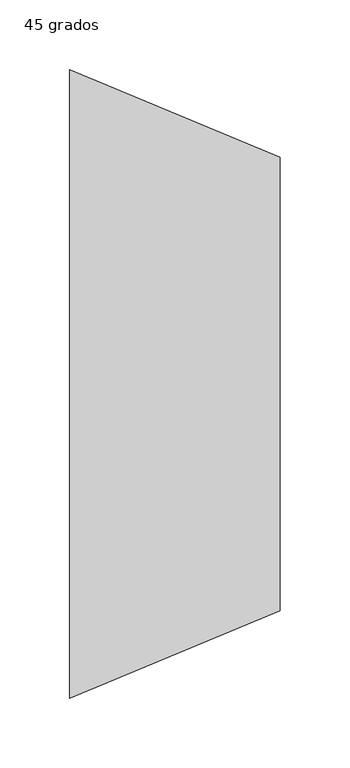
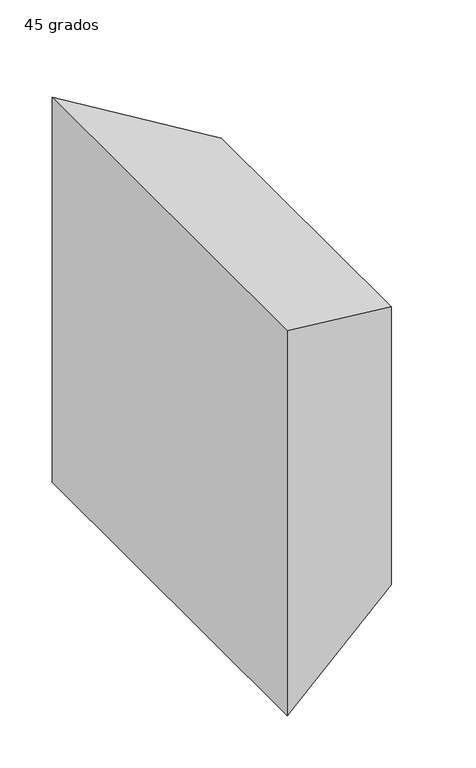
"""IFC4 building model written with IfcOpenShell, lengths in millimetres: duct fitting geometry, M_Transición rectangular - Ángulo : 45 grados."""

from ifc_helpers import new_model, si_unit, origin, place, context, project, spatial, faceted_brep, source, transform, mapped, element, save


def duct_fitting_45_grados_9b682b84(model_context):
    return source(origin(), model_context, "Body", "Brep", [
        faceted_brep([(150.8883476, -162.5, 162.5), (150.8883476, -162.5, -162.5), (150.8883476, 162.5, -162.5), (150.8883476, 162.5, 162.5), (0.0, -225.0, 225.0), (0.0, 225.0, 225.0), (0.0, 225.0, -225.0), (0.0, -225.0, -225.0)], [[[0, 1, 2, 3]], [[4, 5, 6, 7]], [[4, 7, 1, 0]], [[7, 6, 2, 1]], [[6, 5, 3, 2]], [[5, 4, 0, 3]]]),
    ])


if __name__ == "__main__":
    model = new_model("IFC4")
    model_context = context("Model", 3, world=origin())
    ifc_project = project(units=[si_unit("LENGTHUNIT", "METRE", prefix="MILLI")], contexts=[model_context])
    site = spatial("IfcSite", under=ifc_project)
    building = spatial("IfcBuilding", under=site)
    placement = place(None, origin())
    duct_fitting_45_grados_shape = duct_fitting_45_grados_9b682b84(model_context)
    element("IfcDuctFitting", 1, ObjectType="M_Transición rectangular - Ángulo : 45 grados", at=placement, inside=building, context=model_context, shape_type="MappedRepresentation", body=[
        mapped(duct_fitting_45_grados_shape, transform((0.0, 0.0, 0.0), x_axis=(1.0, 0.0, 0.0), y_axis=(0.0, 1.0, 0.0), z_axis=(0.0, 0.0, 1.0))),
    ])
    save(model, "model.ifc")
